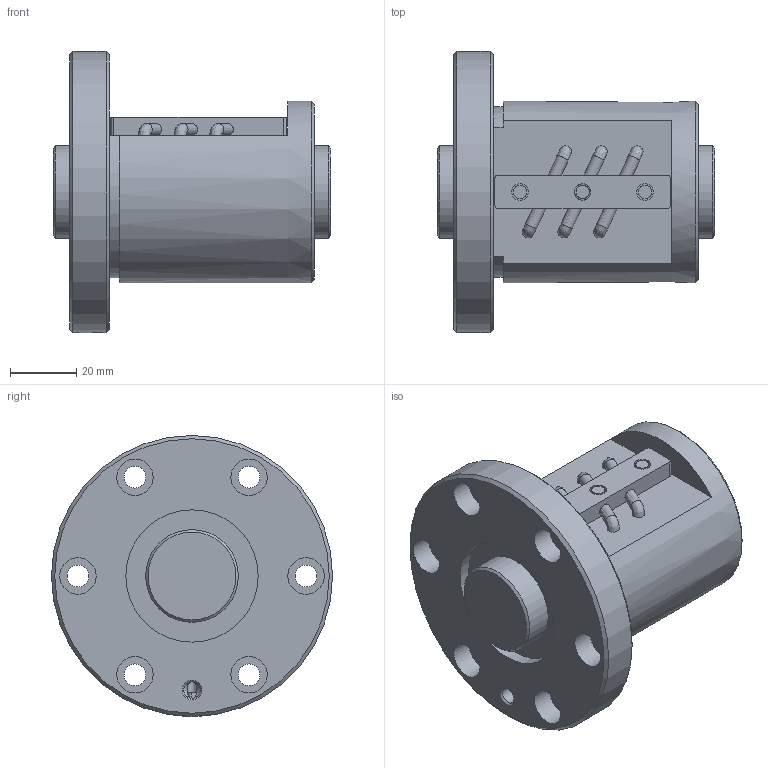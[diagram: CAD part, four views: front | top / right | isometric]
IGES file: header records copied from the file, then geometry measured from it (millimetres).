
Start section: Data from Parasolid IGES Translator 26.0.171, Copyright(c) 2006 Siemens PLM Software. All Rights Reserved.
Global section: file name: BNF2805V-7.5RRG1+84LC0_000_rev.igs; native system: By Siemens PLM Incorporated; preprocessor: XPlus GENERIC/IGES 26.0.171; author: Noname; organization: Noname; date: 20240806.073044; units: millimetre
Bounding box: 84 x 85 x 85 mm (x, y, z)
Surface area: 42887.8 mm2 (no closed solid volume)
Topology: 0 solids, 0 shells, 87 faces, 434 edges, 394 vertices
Faces by surface type: revolution 57, extrusion 30
